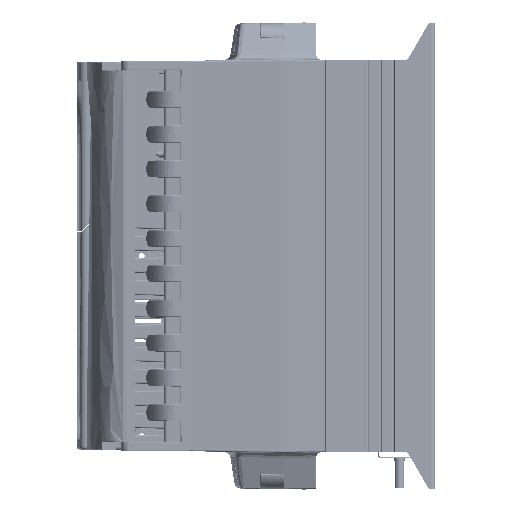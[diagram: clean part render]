
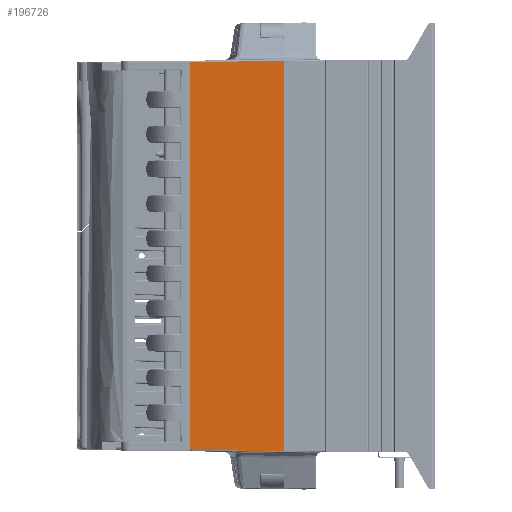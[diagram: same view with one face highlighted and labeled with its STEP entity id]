
A CAD part, left-side view. The second image highlights one B-rep face of the part: STEP entity #196726.
In plain terms, the highlighted planar face has unit normal (-1, 0.018, 0).
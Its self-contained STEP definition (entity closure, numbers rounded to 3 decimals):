
#33996 = DIRECTION ( 'NONE',  ( 0., 0., 1. ) ) ;
#33998 = CARTESIAN_POINT ( 'NONE',  ( -75.415, 24., -124.419 ) ) ;
#40983 = CARTESIAN_POINT ( 'NONE',  ( -74.377, 83.501, -124.419 ) ) ;
#41702 = DIRECTION ( 'NONE',  ( 0., 0., -1. ) ) ;
#51910 = ORIENTED_EDGE ( 'NONE', *, *, #442979, .T. ) ;
#56855 = ORIENTED_EDGE ( 'NONE', *, *, #446167, .T. ) ;
#101599 = VERTEX_POINT ( 'NONE', #592526 ) ;
#104740 = VERTEX_POINT ( 'NONE', #119784 ) ;
#119784 = CARTESIAN_POINT ( 'NONE',  ( -75.415, 24., 123.416 ) ) ;
#122582 = ORIENTED_EDGE ( 'NONE', *, *, #442990, .T. ) ;
#158541 = FACE_OUTER_BOUND ( 'NONE', #406217, .T. ) ;
#168090 = LINE ( 'NONE', #33998, #168122 ) ;
#168122 = VECTOR ( 'NONE', #33996, 1000. ) ;
#196726 = ADVANCED_FACE ( 'NONE', ( #158541 ), #438553, .T. ) ;
#259750 = CARTESIAN_POINT ( 'NONE',  ( -74.377, 83.501, 122.377 ) ) ;
#260806 = CARTESIAN_POINT ( 'NONE',  ( -74.377, 83.501, -122.377 ) ) ;
#406217 = EDGE_LOOP ( 'NONE', ( #56855, #51910, #558496, #122582 ) ) ;
#435194 = DIRECTION ( 'NONE',  ( -1., 0.017, 0. ) ) ;
#436232 = CARTESIAN_POINT ( 'NONE',  ( -75.419, 23.8, -124.419 ) ) ;
#437168 = DIRECTION ( 'NONE',  ( -0.017, -1., 0. ) ) ;
#438553 = PLANE ( 'NONE',  #561653 ) ;
#442979 = EDGE_CURVE ( 'NONE', #485996, #101599, #550818, .T. ) ;
#442990 = EDGE_CURVE ( 'NONE', #104740, #485083, #550866, .T. ) ;
#446167 = EDGE_CURVE ( 'NONE', #485083, #485996, #548819, .T. ) ;
#453843 = EDGE_CURVE ( 'NONE', #101599, #104740, #168090, .T. ) ;
#485083 = VERTEX_POINT ( 'NONE', #259750 ) ;
#485996 = VERTEX_POINT ( 'NONE', #260806 ) ;
#495060 = DIRECTION ( 'NONE',  ( 0.017, 1., -0.017 ) ) ;
#495063 = CARTESIAN_POINT ( 'NONE',  ( -75.343, 28.123, 123.344 ) ) ;
#495579 = DIRECTION ( 'NONE',  ( -0.017, -1., -0.017 ) ) ;
#495590 = CARTESIAN_POINT ( 'NONE',  ( -75.419, 23.783, -123.419 ) ) ;
#548819 = LINE ( 'NONE', #40983, #548829 ) ;
#548829 = VECTOR ( 'NONE', #41702, 1000. ) ;
#550818 = LINE ( 'NONE', #495590, #550838 ) ;
#550838 = VECTOR ( 'NONE', #495579, 1000. ) ;
#550866 = LINE ( 'NONE', #495063, #550870 ) ;
#550870 = VECTOR ( 'NONE', #495060, 1000. ) ;
#558496 = ORIENTED_EDGE ( 'NONE', *, *, #453843, .T. ) ;
#561653 = AXIS2_PLACEMENT_3D ( 'NONE', #436232, #435194, #437168 ) ;
#592526 = CARTESIAN_POINT ( 'NONE',  ( -75.415, 24., -123.416 ) ) ;
